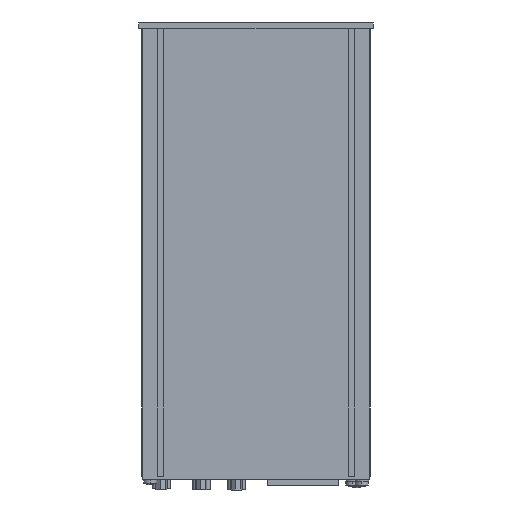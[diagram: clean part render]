
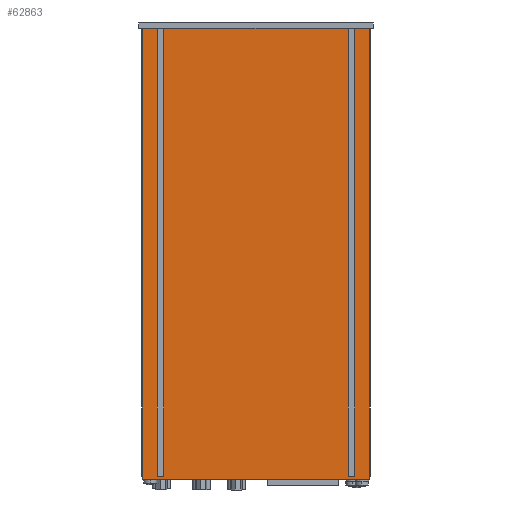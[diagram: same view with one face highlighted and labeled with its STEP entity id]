
A CAD part, front view. The second image highlights one B-rep face of the part: STEP entity #62863.
In plain terms, the highlighted planar face has unit normal (0, -1, 0).
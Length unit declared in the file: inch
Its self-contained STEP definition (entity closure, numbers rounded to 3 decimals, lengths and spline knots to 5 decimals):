
#4943 = CARTESIAN_POINT ( 'NONE',  ( -2.02362, -1.30906, -7.99213 ) ) ;
#4990 = CARTESIAN_POINT ( 'NONE',  ( -2.02362, -1.30906, -8.05118 ) ) ;
#4997 = CARTESIAN_POINT ( 'NONE',  ( 2.02362, -1.30906, -8.05118 ) ) ;
#5001 = CARTESIAN_POINT ( 'NONE',  ( -1.64567, -1.30906, 0. ) ) ;
#5018 = CARTESIAN_POINT ( 'NONE',  ( 1.76378, -1.30906, 0. ) ) ;
#5021 = CARTESIAN_POINT ( 'NONE',  ( -1.76378, -1.30906, -7.99213 ) ) ;
#5028 = CARTESIAN_POINT ( 'NONE',  ( 1.64567, -1.30906, 0. ) ) ;
#5036 = CARTESIAN_POINT ( 'NONE',  ( -1.76378, -1.30906, 0. ) ) ;
#5050 = CARTESIAN_POINT ( 'NONE',  ( 2.02362, -1.30906, 0. ) ) ;
#5051 = CARTESIAN_POINT ( 'NONE',  ( 1.76378, -1.30906, -7.99213 ) ) ;
#5052 = CARTESIAN_POINT ( 'NONE',  ( 1.64567, -1.30906, -7.99213 ) ) ;
#5054 = CARTESIAN_POINT ( 'NONE',  ( -1.64567, -1.30906, -7.99213 ) ) ;
#5055 = CARTESIAN_POINT ( 'NONE',  ( -2.02362, -1.30906, 0. ) ) ;
#5086 = CARTESIAN_POINT ( 'NONE',  ( 2.02362, -1.30906, -7.99213 ) ) ;
#18506 = AXIS2_PLACEMENT_3D ( 'NONE', #24824, #24905, #24921 ) ;
#24813 = PLANE ( 'NONE',  #18506 ) ;
#24824 = CARTESIAN_POINT ( 'NONE',  ( -2.02362, -1.30906, 0. ) ) ;
#24905 = DIRECTION ( 'NONE',  ( 0., -1., 0. ) ) ;
#24911 = FACE_OUTER_BOUND ( 'NONE', #42183, .T. ) ;
#24921 = DIRECTION ( 'NONE',  ( 0., 0., -1. ) ) ;
#31249 = EDGE_CURVE ( 'NONE', #39369, #39362, #57397, .T. ) ;
#31257 = EDGE_CURVE ( 'NONE', #39343, #39350, #57339, .T. ) ;
#31323 = EDGE_CURVE ( 'NONE', #39362, #39332, #56425, .T. ) ;
#31326 = EDGE_CURVE ( 'NONE', #39350, #39368, #56428, .T. ) ;
#31334 = EDGE_CURVE ( 'NONE', #39344, #39330, #56397, .T. ) ;
#31336 = EDGE_CURVE ( 'NONE', #39332, #39383, #56406, .T. ) ;
#31346 = EDGE_CURVE ( 'NONE', #39344, #39302, #56880, .T. ) ;
#31355 = EDGE_CURVE ( 'NONE', #39380, #39330, #64724, .T. ) ;
#31388 = EDGE_CURVE ( 'NONE', #39383, #39340, #64839, .T. ) ;
#31409 = EDGE_CURVE ( 'NONE', #39368, #39369, #64827, .T. ) ;
#31410 = EDGE_CURVE ( 'NONE', #39378, #39302, #64834, .T. ) ;
#31411 = EDGE_CURVE ( 'NONE', #39353, #39378, #64936, .T. ) ;
#31421 = EDGE_CURVE ( 'NONE', #39380, #39343, #64984, .T. ) ;
#31427 = EDGE_CURVE ( 'NONE', #39340, #39353, #65015, .T. ) ;
#39302 = VERTEX_POINT ( 'NONE', #4943 ) ;
#39330 = VERTEX_POINT ( 'NONE', #4997 ) ;
#39332 = VERTEX_POINT ( 'NONE', #5001 ) ;
#39340 = VERTEX_POINT ( 'NONE', #5021 ) ;
#39343 = VERTEX_POINT ( 'NONE', #5050 ) ;
#39344 = VERTEX_POINT ( 'NONE', #4990 ) ;
#39350 = VERTEX_POINT ( 'NONE', #5018 ) ;
#39353 = VERTEX_POINT ( 'NONE', #5036 ) ;
#39362 = VERTEX_POINT ( 'NONE', #5028 ) ;
#39368 = VERTEX_POINT ( 'NONE', #5051 ) ;
#39369 = VERTEX_POINT ( 'NONE', #5052 ) ;
#39378 = VERTEX_POINT ( 'NONE', #5055 ) ;
#39380 = VERTEX_POINT ( 'NONE', #5086 ) ;
#39383 = VERTEX_POINT ( 'NONE', #5054 ) ;
#42183 = EDGE_LOOP ( 'NONE', ( #73653, #73694, #73510, #73715, #73513, #73477, #73472, #73588, #73524, #73652, #73705, #73579, #73482, #73525 ) ) ;
#56388 = DIRECTION ( 'NONE',  ( 1., 0., 0. ) ) ;
#56390 = DIRECTION ( 'NONE',  ( -1., 0., 0. ) ) ;
#56394 = DIRECTION ( 'NONE',  ( 0., 0., -1. ) ) ;
#56395 = CARTESIAN_POINT ( 'NONE',  ( -2.02362, -1.30906, -8.05118 ) ) ;
#56397 = LINE ( 'NONE', #56395, #57907 ) ;
#56406 = LINE ( 'NONE', #56414, #57913 ) ;
#56409 = CARTESIAN_POINT ( 'NONE',  ( -2.02362, -1.30906, 0. ) ) ;
#56414 = CARTESIAN_POINT ( 'NONE',  ( -1.64567, -1.30906, 0. ) ) ;
#56424 = DIRECTION ( 'NONE',  ( 0., 0., -1. ) ) ;
#56425 = LINE ( 'NONE', #56409, #57840 ) ;
#56428 = LINE ( 'NONE', #56430, #57871 ) ;
#56430 = CARTESIAN_POINT ( 'NONE',  ( 1.76378, -1.30906, 0. ) ) ;
#56880 = LINE ( 'NONE', #56998, #57986 ) ;
#56987 = DIRECTION ( 'NONE',  ( 0., 0., 1. ) ) ;
#56998 = CARTESIAN_POINT ( 'NONE',  ( -2.02362, -1.30906, 0. ) ) ;
#57339 = LINE ( 'NONE', #57340, #57896 ) ;
#57340 = CARTESIAN_POINT ( 'NONE',  ( -2.02362, -1.30906, 0. ) ) ;
#57376 = CARTESIAN_POINT ( 'NONE',  ( 1.64567, -1.30906, 0. ) ) ;
#57388 = DIRECTION ( 'NONE',  ( -1., 0., 0. ) ) ;
#57397 = LINE ( 'NONE', #57376, #57950 ) ;
#57399 = DIRECTION ( 'NONE',  ( 0., 0., 1. ) ) ;
#57840 = VECTOR ( 'NONE', #56390, 39.37008 ) ;
#57871 = VECTOR ( 'NONE', #56394, 39.37008 ) ;
#57896 = VECTOR ( 'NONE', #57388, 39.37008 ) ;
#57907 = VECTOR ( 'NONE', #56388, 39.37008 ) ;
#57913 = VECTOR ( 'NONE', #56424, 39.37008 ) ;
#57950 = VECTOR ( 'NONE', #57399, 39.37008 ) ;
#57984 = VECTOR ( 'NONE', #64807, 39.37008 ) ;
#57986 = VECTOR ( 'NONE', #56987, 39.37008 ) ;
#57993 = VECTOR ( 'NONE', #64923, 39.37008 ) ;
#57997 = VECTOR ( 'NONE', #64799, 39.37008 ) ;
#58039 = VECTOR ( 'NONE', #64888, 39.37008 ) ;
#58042 = VECTOR ( 'NONE', #64941, 39.37008 ) ;
#58048 = VECTOR ( 'NONE', #64994, 39.37008 ) ;
#58060 = VECTOR ( 'NONE', #65006, 39.37008 ) ;
#62863 = ADVANCED_FACE ( 'NONE', ( #24911 ), #24813, .T. ) ;
#64724 = LINE ( 'NONE', #64771, #57997 ) ;
#64771 = CARTESIAN_POINT ( 'NONE',  ( 2.02362, -1.30906, 0. ) ) ;
#64799 = DIRECTION ( 'NONE',  ( 0., 0., -1. ) ) ;
#64801 = CARTESIAN_POINT ( 'NONE',  ( -2.02362, -1.30906, -7.99213 ) ) ;
#64807 = DIRECTION ( 'NONE',  ( -1., 0., 0. ) ) ;
#64827 = LINE ( 'NONE', #64845, #58039 ) ;
#64834 = LINE ( 'NONE', #64955, #58048 ) ;
#64839 = LINE ( 'NONE', #64801, #57984 ) ;
#64845 = CARTESIAN_POINT ( 'NONE',  ( -2.02362, -1.30906, -7.99213 ) ) ;
#64888 = DIRECTION ( 'NONE',  ( -1., 0., 0. ) ) ;
#64921 = CARTESIAN_POINT ( 'NONE',  ( -1.76378, -1.30906, 0. ) ) ;
#64923 = DIRECTION ( 'NONE',  ( 0., 0., 1. ) ) ;
#64936 = LINE ( 'NONE', #65010, #58060 ) ;
#64939 = CARTESIAN_POINT ( 'NONE',  ( 2.02362, -1.30906, 0. ) ) ;
#64941 = DIRECTION ( 'NONE',  ( 0., 0., 1. ) ) ;
#64955 = CARTESIAN_POINT ( 'NONE',  ( -2.02362, -1.30906, 0. ) ) ;
#64984 = LINE ( 'NONE', #64939, #58042 ) ;
#64994 = DIRECTION ( 'NONE',  ( 0., 0., -1. ) ) ;
#65006 = DIRECTION ( 'NONE',  ( -1., 0., 0. ) ) ;
#65010 = CARTESIAN_POINT ( 'NONE',  ( -2.02362, -1.30906, 0. ) ) ;
#65015 = LINE ( 'NONE', #64921, #57993 ) ;
#73472 = ORIENTED_EDGE ( 'NONE', *, *, #31334, .T. ) ;
#73477 = ORIENTED_EDGE ( 'NONE', *, *, #31346, .F. ) ;
#73482 = ORIENTED_EDGE ( 'NONE', *, *, #31249, .T. ) ;
#73510 = ORIENTED_EDGE ( 'NONE', *, *, #31427, .T. ) ;
#73513 = ORIENTED_EDGE ( 'NONE', *, *, #31410, .T. ) ;
#73524 = ORIENTED_EDGE ( 'NONE', *, *, #31421, .T. ) ;
#73525 = ORIENTED_EDGE ( 'NONE', *, *, #31323, .T. ) ;
#73579 = ORIENTED_EDGE ( 'NONE', *, *, #31409, .T. ) ;
#73588 = ORIENTED_EDGE ( 'NONE', *, *, #31355, .F. ) ;
#73652 = ORIENTED_EDGE ( 'NONE', *, *, #31257, .T. ) ;
#73653 = ORIENTED_EDGE ( 'NONE', *, *, #31336, .T. ) ;
#73694 = ORIENTED_EDGE ( 'NONE', *, *, #31388, .T. ) ;
#73705 = ORIENTED_EDGE ( 'NONE', *, *, #31326, .T. ) ;
#73715 = ORIENTED_EDGE ( 'NONE', *, *, #31411, .T. ) ;
